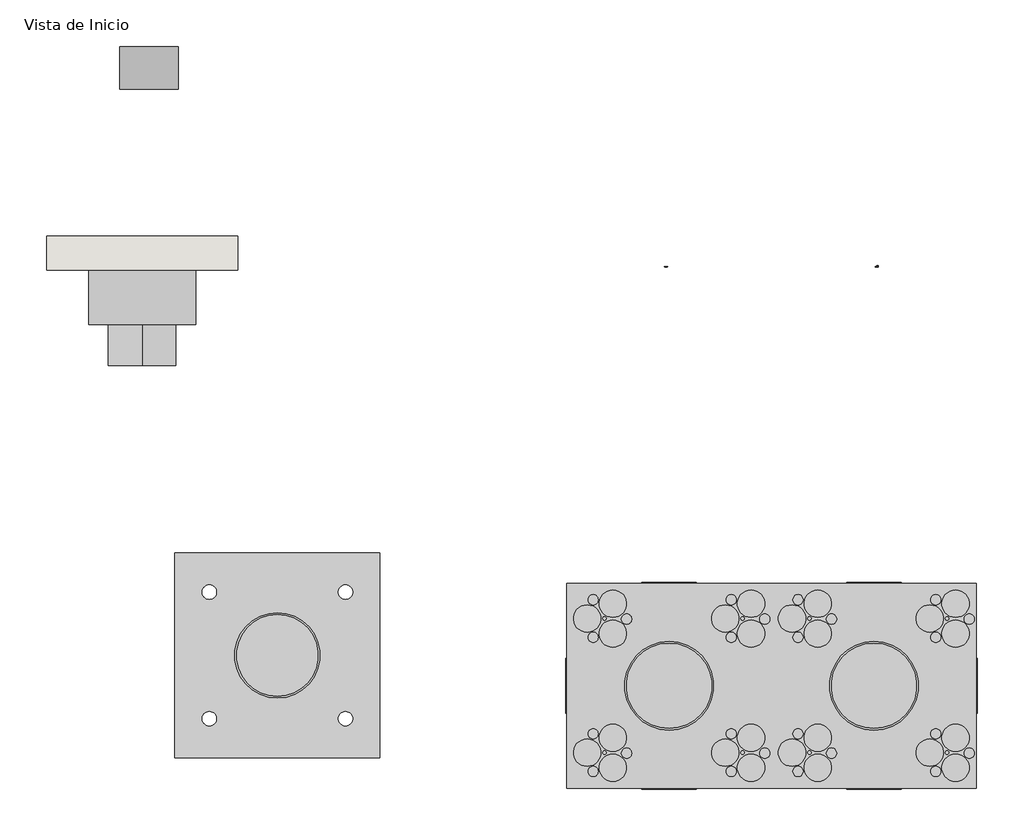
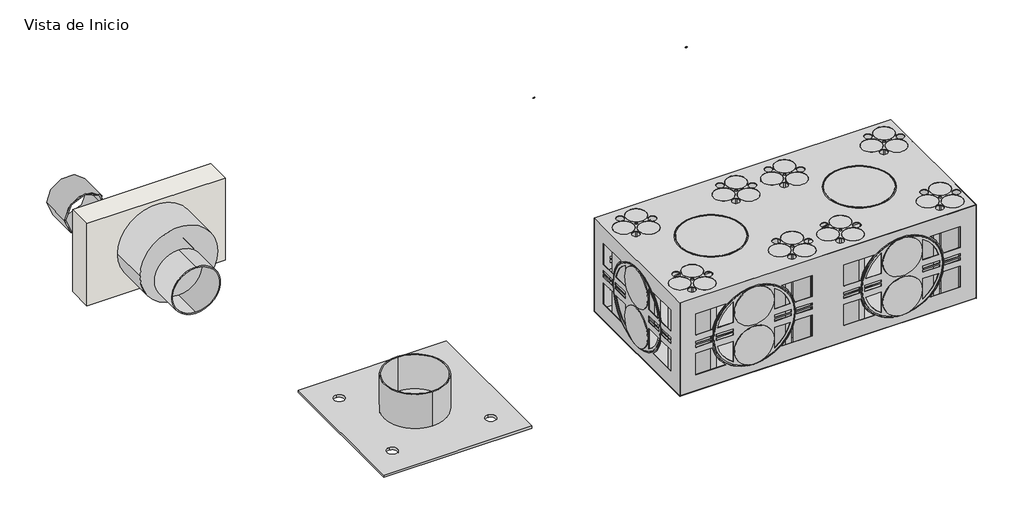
# One storey, incomplete: 13 pipe fittings, 1 proxy, 1 wall.
"""IFC4 building model written with IfcOpenShell, lengths in millimetres."""

from ifc_helpers import new_model, si_unit, origin, origin_with_axes, place, context, project, spatial, polyline, outline, extrude, transform, mapped, element, save
from components import var_ef881a78, var_9defbf0c, var_741f9a40, var_3434ab98, var_825fd33e, var_8d4eb38c

model = new_model("IFC4")

# Units and contexts
model_context = context("Model", 3, world=origin())
ifc_project = project(units=[si_unit("LENGTHUNIT", "METRE", prefix="MILLI")], contexts=[model_context])

# Site, building, storey
site = spatial("IfcSite", under=ifc_project)
building = spatial("IfcBuilding", under=site)
storey = spatial("IfcBuildingStorey", under=building, Name="Vista de Inicio", Elevation=0.0)

# Proxy
placement = place(None, origin())
var_shape = var_ef881a78(model_context)
var_2_shape = var_9defbf0c(model_context)
element("IfcBuildingElementProxy", 1, Name="AmancoWavin_AquaCell NG : Var.", ObjectType="AmancoWavin_AquaCell NG : Var.", at=placement, inside=storey, context=model_context, shape_type="MappedRepresentation", body=[
    mapped(var_shape, transform((3070.8926855, -238.235627, 0.0), x_axis=(0.0, 1.0, 0.0), y_axis=(-1.0, 0.0, 0.0), z_axis=(0.0, 0.0, 1.0))),
    mapped(var_2_shape, transform((3070.8926855, -238.235627, 0.0), x_axis=(0.0, 1.0, 0.0), y_axis=(-1.0, 0.0, 0.0), z_axis=(0.0, 0.0, 1.0))),
])

# Pipe fittings
var_3_shape = var_741f9a40(model_context)
element("IfcPipeFitting", 2, ObjectType="AmancoWavin_Unionesdetubería_AquacellNG_AdaptadorSuperior : Var", at=placement, inside=storey, context=model_context, shape_type="MappedRepresentation", body=[
    mapped(var_3_shape, transform((1623.9505925, -149.0949403, 0.0), x_axis=(0.0, 1.0, 0.0), y_axis=(-1.0, 0.0, 0.0), z_axis=(0.0, 0.0, 1.0))),
])
var_4_shape = var_3434ab98(model_context)
element("IfcPipeFitting", 3, ObjectType="AmancoWavin_UnionesDeTuberia_Aquacell AG_Conexión DN160 : Var.", at=placement, inside=storey, context=model_context, shape_type="MappedRepresentation", body=[
    mapped(var_4_shape, transform((1247.9782125, 1509.8860418, -30.8935932), x_axis=(1.0, 0.0, 0.0), y_axis=(0.0, 0.0, 1.0), z_axis=(0.0, -1.0, 0.0))),
])
var_5_shape = var_825fd33e(model_context)
element("IfcPipeFitting", 4, ObjectType="AmancoWavin_Unionesdetubería_AquacellZNoUsarClip : Var.", at=placement, inside=storey, context=model_context, shape_type="MappedRepresentation", body=[
    mapped(var_5_shape, transform((2760.8144916, 989.7923653, 0.0), x_axis=(1.0, 0.0, 0.0), y_axis=(0.0, 1.0, 0.0), z_axis=(0.0, 0.0, 1.0))),
])
element("IfcPipeFitting", 5, ObjectType="AmancoWavin_Unionesdetubería_AquacellZNoUsarClip : Var.", at=placement, inside=storey, context=model_context, shape_type="MappedRepresentation", body=[
    mapped(var_5_shape, transform((2763.0354866, 989.7923653, 0.0), x_axis=(1.0, 0.0, 0.0), y_axis=(0.0, 1.0, 0.0), z_axis=(0.0, 0.0, 1.0))),
])
element("IfcPipeFitting", 6, ObjectType="AmancoWavin_Unionesdetubería_AquacellZNoUsarClip : Var.", at=placement, inside=storey, context=model_context, shape_type="MappedRepresentation", body=[
    mapped(var_5_shape, transform((2758.3601833, 989.7923653, 0.0), x_axis=(1.0, 0.0, 0.0), y_axis=(0.0, 1.0, 0.0), z_axis=(0.0, 0.0, 1.0))),
])
element("IfcPipeFitting", 7, ObjectType="AmancoWavin_Unionesdetubería_AquacellZNoUsarClip : Var.", at=placement, inside=storey, context=model_context, shape_type="MappedRepresentation", body=[
    mapped(var_5_shape, transform((2765.3731383, 989.7923653, 0.0), x_axis=(1.0, 0.0, 0.0), y_axis=(0.0, 1.0, 0.0), z_axis=(0.0, 0.0, 1.0))),
])
element("IfcPipeFitting", 8, ObjectType="AmancoWavin_Unionesdetubería_AquacellZNoUsarClip : Var.", at=placement, inside=storey, context=model_context, shape_type="MappedRepresentation", body=[
    mapped(var_5_shape, transform((3378.1463739, 989.7923653, 0.0), x_axis=(1.0, 0.0, 0.0), y_axis=(0.0, 1.0, 0.0), z_axis=(0.0, 0.0, 1.0))),
])
element("IfcPipeFitting", 9, ObjectType="AmancoWavin_Unionesdetubería_AquacellZNoUsarClip : Var.", at=placement, inside=storey, context=model_context, shape_type="MappedRepresentation", body=[
    mapped(var_5_shape, transform((3380.3673689, 989.7923653, 0.0), x_axis=(1.0, 0.0, 0.0), y_axis=(0.0, 1.0, 0.0), z_axis=(0.0, 0.0, 1.0))),
])
element("IfcPipeFitting", 10, ObjectType="AmancoWavin_Unionesdetubería_AquacellZNoUsarClip : Var.", at=placement, inside=storey, context=model_context, shape_type="MappedRepresentation", body=[
    mapped(var_5_shape, transform((3375.6920656, 989.7923653, 0.0), x_axis=(1.0, 0.0, 0.0), y_axis=(0.0, 1.0, 0.0), z_axis=(0.0, 0.0, 1.0))),
])
element("IfcPipeFitting", 11, ObjectType="AmancoWavin_Unionesdetubería_AquacellZNoUsarClip : Var.", at=placement, inside=storey, context=model_context, shape_type="MappedRepresentation", body=[
    mapped(var_5_shape, transform((3382.7050206, 989.7923653, 0.0), x_axis=(1.0, 0.0, 0.0), y_axis=(0.0, 1.0, 0.0), z_axis=(0.0, 0.0, 1.0))),
])
element("IfcPipeFitting", 12, ObjectType="AmancoWavin_Unionesdetubería_AquacellZNoUsarPin : Var.", at=placement, inside=storey, context=model_context, shape_type="MappedRepresentation", body=[
    mapped(var_5_shape, transform((3382.7159719, 991.9119679, 0.0), x_axis=(1.0, 0.0, 0.0), y_axis=(0.0, 1.0, 0.0), z_axis=(0.0, 0.0, 1.0))),
])
element("IfcPipeFitting", 13, ObjectType="AmancoWavin_Unionesdetubería_AquacellZNoUsarPin : Var.", at=placement, inside=storey, context=model_context, shape_type="MappedRepresentation", body=[
    mapped(var_5_shape, transform((3380.1473673, 991.8684322, 0.0), x_axis=(1.0, 0.0, 0.0), y_axis=(0.0, 1.0, 0.0), z_axis=(0.0, 0.0, 1.0))),
])
var_6_shape = var_8d4eb38c(model_context)
element("IfcPipeFitting", 14, ObjectType="AmancoWavin_UnionesDeTuberia_AquacellNGConector : Var.", at=placement, inside=storey, context=model_context, shape_type="MappedRepresentation", body=[
    mapped(var_6_shape, transform((1227.9782125, 979.9174608, 179.1891891), x_axis=(1.0, 0.0, 0.0), y_axis=(0.0, 0.0, 1.0), z_axis=(0.0, -1.0, 0.0))),
])

# Wall
element("IfcWall", 15, ObjectType="Wall 1", at=placement, inside=storey, context=model_context, shape_type="SweptSolid", body=[
    extrude(outline(polyline([(947.9782125, 1079.9174608), (1507.9782125, 1079.9174608), (1507.9782125, 979.9174608), (947.9782125, 979.9174608), (947.9782125, 1079.9174608)])), origin_with_axes(), (0.0, 0.0, 1.0), 351.4849675),
])

save(model, "model.ifc")
